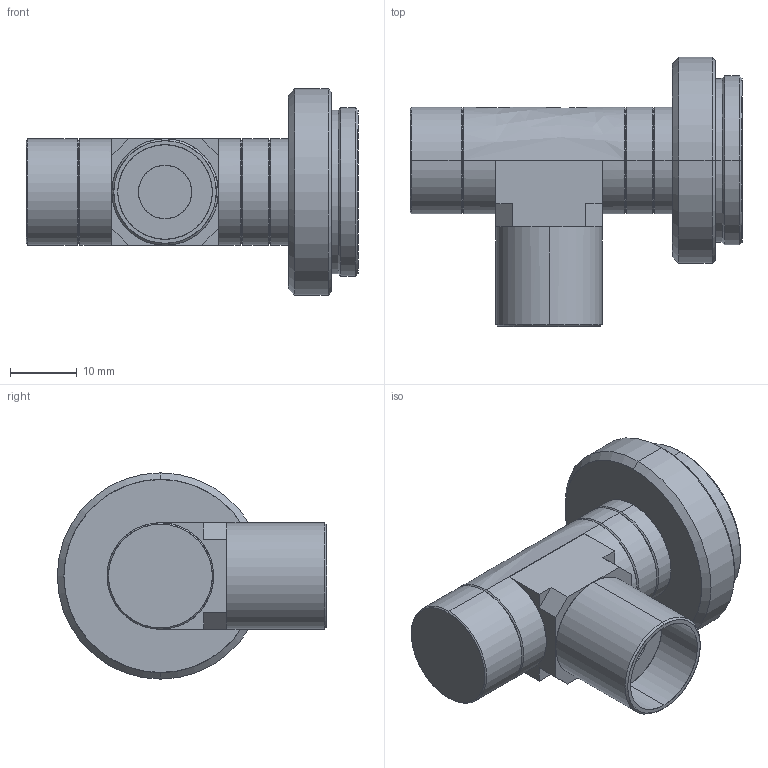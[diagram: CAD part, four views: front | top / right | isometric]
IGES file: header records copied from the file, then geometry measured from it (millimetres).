
Start section: SolidWorks IGES file using analytic representation for surfaces
Global section: file name: C:\Users\tsuji_vst\Documents\【作業フォルダ】\_3D\00 VST\VS-TC\VS-TC4-40CO\VS-TC4-40CO.IGS; native system: SolidWorks 2018; preprocessor: SolidWorks 2018; author: tsuji_vst; date: 180627.144601; units: millimetre
Bounding box: 49.9 x 40.5 x 31 mm (x, y, z)
Surface area: 5935.7 mm2 (no closed solid volume)
Topology: 0 solids, 0 shells, 67 faces, 746 edges, 746 vertices
Faces by surface type: revolution 44, bspline 23
